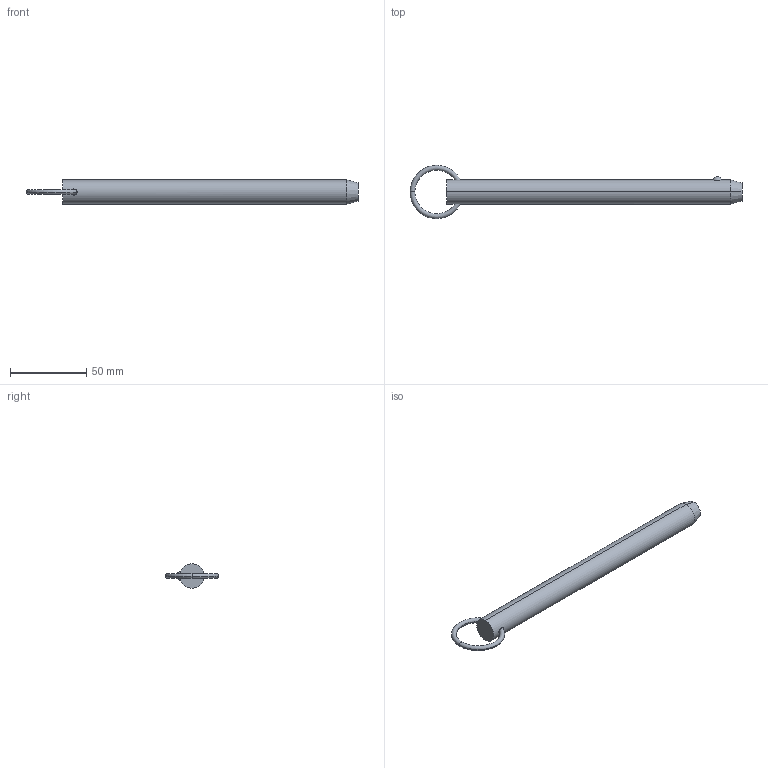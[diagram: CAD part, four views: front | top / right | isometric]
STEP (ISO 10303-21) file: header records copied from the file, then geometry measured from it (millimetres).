
FILE_DESCRIPTION (( 'STEP AP203' ), '1' );
FILE_NAME ('33010.W6265.step', '2024-11-01T10:42:51', ( '' ), ( '' ), 'SwSTEP 2.0', 'SolidWorks 2019', '' );
FILE_SCHEMA (( 'CONFIG_CONTROL_DESIGN' ));
Length unit declared in the file: millimetre
Products named in the file (3): Part1_33010.W6265; 33010.W6265; Part2_33010.W6265
Assembly tree (2 placements, depth 2):
  33010.W6265
    Part1_33010.W6265
    Part2_33010.W6265
Bounding box: 217.61 x 34.93 x 15.88 mm (x, y, z)
Volume: 38645.3 mm3; surface area: 11125.7 mm2
Topology: 2 solids, 2 shells, 16 faces, 31 edges, 18 vertices
Faces by surface type: torus 8, sphere 2, cone 2, cylinder 2, plane 2
Entity records: 889 total; most frequent: CARTESIAN_POINT 246, DIRECTION 88, ORIENTED_EDGE 62, AXIS2_PLACEMENT_3D 42, EDGE_CURVE 31, PERSON_AND_ORGANIZATION 26, CIRCLE 21, EDGE_LOOP 19
